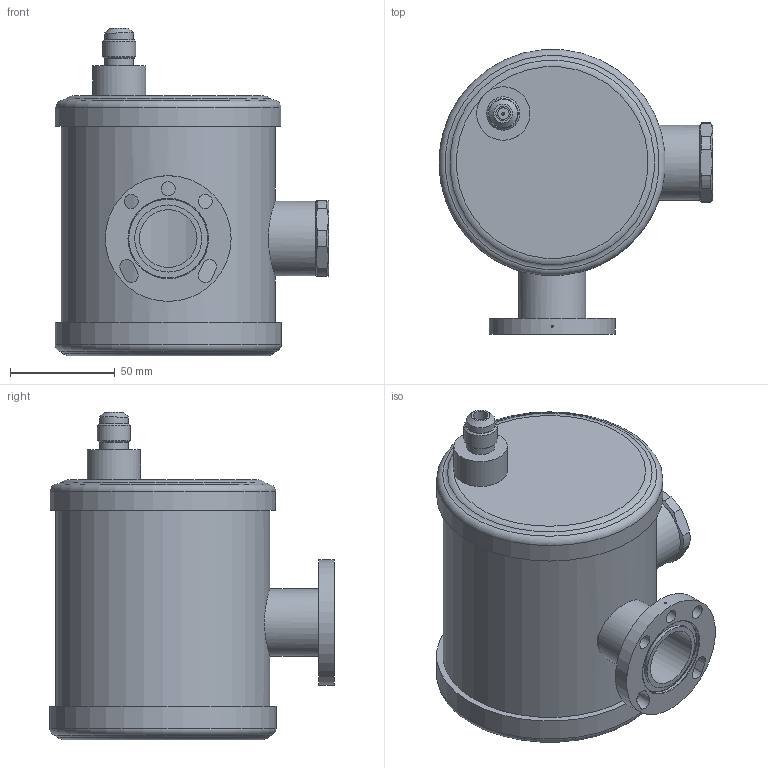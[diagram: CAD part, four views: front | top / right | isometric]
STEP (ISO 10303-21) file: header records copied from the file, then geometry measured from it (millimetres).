
FILE_DESCRIPTION(/* description */ (''),/* implementation_level */ '2;1');
FILE_NAME(/* name */ '5640_C',/* time_stamp */ '2009-07-03T13:46:40+02:00',/* author */ (''),/* organization */ (''),/* preprocessor_version */ 'ST-DEVELOPER v9',/* originating_system */ 'UGS - NX 4.0',/* authorisation */ '');
FILE_SCHEMA (('CONFIG_CONTROL_DESIGN'));
Length unit declared in the file: millimetre
Products named in the file (1): FColEC1A70b2
Bounding box: 130.7 x 135.8 x 156.4 mm (x, y, z)
Volume: 234151.5 mm3; surface area: 136237.1 mm2
Topology: 6 solids, 8 shells, 172 faces, 411 edges, 277 vertices
Faces by surface type: cylinder 76, plane 64, torus 19, cone 11, bspline 2
Full cylindrical faces by diameter (mm): 1 x1, 1.4 x1, 2 x2, 2.1 x1, 2.2 x20, 4.2 x2, 5 x1, 5.1 x1, 5.5 x1, 6.7 x3, 7 x1, 13.7 x2, 15.875 x1, 20 x1, 20.2 x1, 22 x1, 22.2 x1, 24 x1, 25.5 x1, 26.4 x1, 27 x2, 27.5 x1, 28 x1, 31.3 x1, 32 x3, 35.7 x1, 38 x1, 60 x1, 96 x1, 102 x2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
Entity records: 4803 total; most frequent: CARTESIAN_POINT 1180, DIRECTION 764, ORIENTED_EDGE 532, EDGE_LOOP 352, AXIS2_PLACEMENT_3D 350, EDGE_CURVE 266, FACE_BOUND 262, VERTEX_POINT 227
